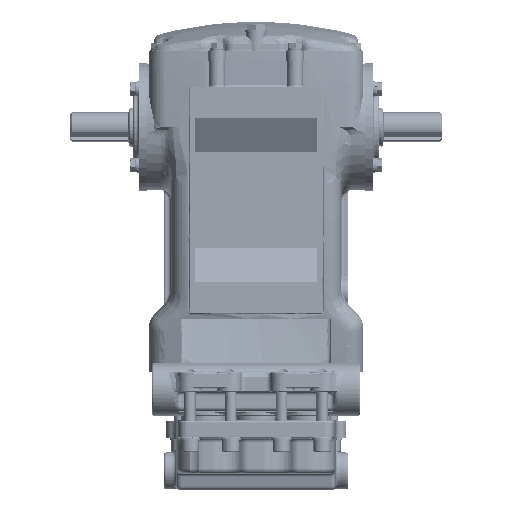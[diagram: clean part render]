
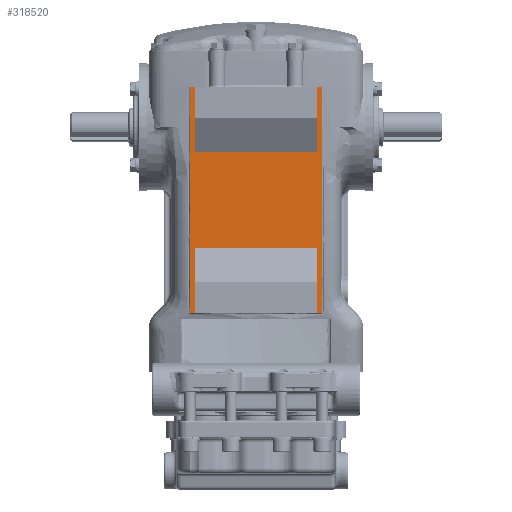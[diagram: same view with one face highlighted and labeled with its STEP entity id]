
A CAD part, front view. The second image highlights one B-rep face of the part: STEP entity #318520.
In plain terms, the highlighted planar face has unit normal (0, -1, 0).
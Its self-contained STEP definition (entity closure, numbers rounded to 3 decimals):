
#11812 = LINE ( 'NONE', #11815, #323015 ) ;
#11815 = CARTESIAN_POINT ( 'NONE',  ( -62.5, -80., 338. ) ) ;
#11816 = DIRECTION ( 'NONE',  ( 0., 0., -1. ) ) ;
#11841 = LINE ( 'NONE', #11845, #323019 ) ;
#11845 = CARTESIAN_POINT ( 'NONE',  ( 62.5, -80., 106. ) ) ;
#11847 = DIRECTION ( 'NONE',  ( 0., 0., 1. ) ) ;
#11867 = LINE ( 'NONE', #11869, #323022 ) ;
#11869 = CARTESIAN_POINT ( 'NONE',  ( 67.5, -80., 106. ) ) ;
#11872 = DIRECTION ( 'NONE',  ( 1., 0., 0. ) ) ;
#11881 = LINE ( 'NONE', #11883, #323024 ) ;
#11883 = CARTESIAN_POINT ( 'NONE',  ( 67.5, -80., 106. ) ) ;
#11886 = DIRECTION ( 'NONE',  ( 1., 0., 0. ) ) ;
#11896 = LINE ( 'NONE', #11898, #323026 ) ;
#11898 = CARTESIAN_POINT ( 'NONE',  ( -67.5, -80., 106. ) ) ;
#11902 = DIRECTION ( 'NONE',  ( 0., 0., -1. ) ) ;
#11914 = LINE ( 'NONE', #11916, #323029 ) ;
#11916 = CARTESIAN_POINT ( 'NONE',  ( 67.5, -80., 338. ) ) ;
#11920 = DIRECTION ( 'NONE',  ( 0., 0., 1. ) ) ;
#11935 = LINE ( 'NONE', #11938, #323030 ) ;
#11938 = CARTESIAN_POINT ( 'NONE',  ( -67.5, -80., 338. ) ) ;
#11940 = DIRECTION ( 'NONE',  ( -1., 0., 0. ) ) ;
#11997 = LINE ( 'NONE', #12000, #323039 ) ;
#12000 = CARTESIAN_POINT ( 'NONE',  ( -67.5, -80., 338. ) ) ;
#12001 = DIRECTION ( 'NONE',  ( -1., 0., 0. ) ) ;
#12073 = LINE ( 'NONE', #12075, #323047 ) ;
#12075 = CARTESIAN_POINT ( 'NONE',  ( 62.5, -80., 106. ) ) ;
#12079 = DIRECTION ( 'NONE',  ( 0., 0., 1. ) ) ;
#12081 = LINE ( 'NONE', #12085, #323048 ) ;
#12085 = CARTESIAN_POINT ( 'NONE',  ( -62.5, -80., 338. ) ) ;
#12086 = DIRECTION ( 'NONE',  ( 0., 0., -1. ) ) ;
#19436 = EDGE_LOOP ( 'NONE', ( #248203, #248206, #248208, #248200, #248211, #248214, #248217, #248220, #248222, #248228, #248230, #248225 ) ) ;
#49030 = LINE ( 'NONE', #49033, #287894 ) ;
#49033 = CARTESIAN_POINT ( 'NONE',  ( -107.5, -80., 173. ) ) ;
#49036 = DIRECTION ( 'NONE',  ( 1., 0., 0. ) ) ;
#49057 = LINE ( 'NONE', #49060, #287902 ) ;
#49060 = CARTESIAN_POINT ( 'NONE',  ( -107.5, -80., 271. ) ) ;
#49063 = DIRECTION ( 'NONE',  ( 1., 0., 0. ) ) ;
#58940 = EDGE_CURVE ( 'NONE', #278844, #278843, #49030, .T. ) ;
#58950 = EDGE_CURVE ( 'NONE', #278845, #278846, #49057, .T. ) ;
#163467 = EDGE_CURVE ( 'NONE', #278844, #279124, #11812, .T. ) ;
#163478 = EDGE_CURVE ( 'NONE', #279126, #278843, #11841, .T. ) ;
#163486 = EDGE_CURVE ( 'NONE', #279126, #279128, #11867, .T. ) ;
#163491 = EDGE_CURVE ( 'NONE', #279127, #279124, #11881, .T. ) ;
#163497 = EDGE_CURVE ( 'NONE', #279129, #279127, #11896, .T. ) ;
#163504 = EDGE_CURVE ( 'NONE', #279128, #279130, #11914, .T. ) ;
#163509 = EDGE_CURVE ( 'NONE', #279131, #279129, #11935, .T. ) ;
#163532 = EDGE_CURVE ( 'NONE', #279130, #279138, #11997, .T. ) ;
#163560 = EDGE_CURVE ( 'NONE', #278846, #279138, #12073, .T. ) ;
#163563 = EDGE_CURVE ( 'NONE', #279131, #278845, #12081, .T. ) ;
#248200 = ORIENTED_EDGE ( 'NONE', *, *, #163486, .T. ) ;
#248203 = ORIENTED_EDGE ( 'NONE', *, *, #163467, .F. ) ;
#248206 = ORIENTED_EDGE ( 'NONE', *, *, #58940, .T. ) ;
#248208 = ORIENTED_EDGE ( 'NONE', *, *, #163478, .F. ) ;
#248211 = ORIENTED_EDGE ( 'NONE', *, *, #163504, .T. ) ;
#248214 = ORIENTED_EDGE ( 'NONE', *, *, #163532, .T. ) ;
#248217 = ORIENTED_EDGE ( 'NONE', *, *, #163560, .F. ) ;
#248220 = ORIENTED_EDGE ( 'NONE', *, *, #58950, .F. ) ;
#248222 = ORIENTED_EDGE ( 'NONE', *, *, #163563, .F. ) ;
#248225 = ORIENTED_EDGE ( 'NONE', *, *, #163491, .T. ) ;
#248228 = ORIENTED_EDGE ( 'NONE', *, *, #163509, .T. ) ;
#248230 = ORIENTED_EDGE ( 'NONE', *, *, #163497, .T. ) ;
#278843 = VERTEX_POINT ( 'NONE', #385568 ) ;
#278844 = VERTEX_POINT ( 'NONE', #385571 ) ;
#278845 = VERTEX_POINT ( 'NONE', #385574 ) ;
#278846 = VERTEX_POINT ( 'NONE', #385577 ) ;
#279124 = VERTEX_POINT ( 'NONE', #386383 ) ;
#279126 = VERTEX_POINT ( 'NONE', #386389 ) ;
#279127 = VERTEX_POINT ( 'NONE', #386392 ) ;
#279128 = VERTEX_POINT ( 'NONE', #386394 ) ;
#279129 = VERTEX_POINT ( 'NONE', #386397 ) ;
#279130 = VERTEX_POINT ( 'NONE', #386400 ) ;
#279131 = VERTEX_POINT ( 'NONE', #386403 ) ;
#279138 = VERTEX_POINT ( 'NONE', #386422 ) ;
#287894 = VECTOR ( 'NONE', #49036, 1000. ) ;
#287902 = VECTOR ( 'NONE', #49063, 1000. ) ;
#318520 = ADVANCED_FACE ( 'NONE', ( #359625 ), #358812, .F. ) ;
#323015 = VECTOR ( 'NONE', #11816, 1000. ) ;
#323019 = VECTOR ( 'NONE', #11847, 1000. ) ;
#323022 = VECTOR ( 'NONE', #11872, 1000. ) ;
#323024 = VECTOR ( 'NONE', #11886, 1000. ) ;
#323026 = VECTOR ( 'NONE', #11902, 1000. ) ;
#323029 = VECTOR ( 'NONE', #11920, 1000. ) ;
#323030 = VECTOR ( 'NONE', #11940, 1000. ) ;
#323039 = VECTOR ( 'NONE', #12001, 1000. ) ;
#323047 = VECTOR ( 'NONE', #12079, 1000. ) ;
#323048 = VECTOR ( 'NONE', #12086, 1000. ) ;
#358812 = PLANE ( 'NONE',  #359644 ) ;
#358814 = CARTESIAN_POINT ( 'NONE',  ( 67.5, -80., 106. ) ) ;
#358816 = DIRECTION ( 'NONE',  ( 0., 1., 0. ) ) ;
#358818 = DIRECTION ( 'NONE',  ( 0., 0., 1. ) ) ;
#359625 = FACE_OUTER_BOUND ( 'NONE', #19436, .T. ) ;
#359644 = AXIS2_PLACEMENT_3D ( 'NONE', #358814, #358816, #358818 ) ;
#385568 = CARTESIAN_POINT ( 'NONE',  ( 62.5, -80., 173. ) ) ;
#385571 = CARTESIAN_POINT ( 'NONE',  ( -62.5, -80., 173. ) ) ;
#385574 = CARTESIAN_POINT ( 'NONE',  ( -62.5, -80., 271. ) ) ;
#385577 = CARTESIAN_POINT ( 'NONE',  ( 62.5, -80., 271. ) ) ;
#386383 = CARTESIAN_POINT ( 'NONE',  ( -62.5, -80., 106. ) ) ;
#386389 = CARTESIAN_POINT ( 'NONE',  ( 62.5, -80., 106. ) ) ;
#386392 = CARTESIAN_POINT ( 'NONE',  ( -67.5, -80., 106. ) ) ;
#386394 = CARTESIAN_POINT ( 'NONE',  ( 67.5, -80., 106. ) ) ;
#386397 = CARTESIAN_POINT ( 'NONE',  ( -67.5, -80., 338. ) ) ;
#386400 = CARTESIAN_POINT ( 'NONE',  ( 67.5, -80., 338. ) ) ;
#386403 = CARTESIAN_POINT ( 'NONE',  ( -62.5, -80., 338. ) ) ;
#386422 = CARTESIAN_POINT ( 'NONE',  ( 62.5, -80., 338. ) ) ;
